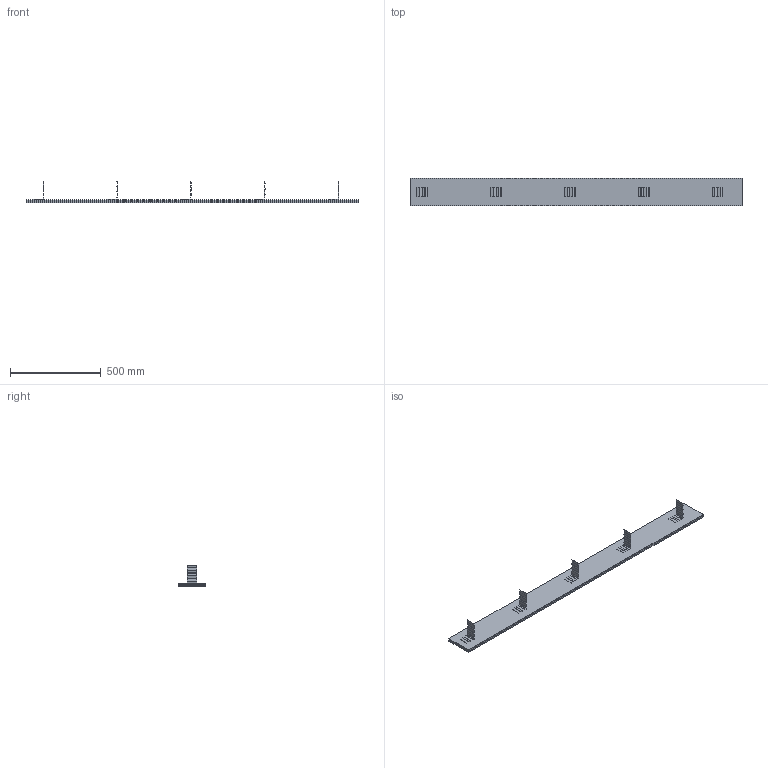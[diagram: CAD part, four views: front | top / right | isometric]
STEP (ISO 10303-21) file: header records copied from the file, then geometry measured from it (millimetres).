
FILE_DESCRIPTION(/* description */ (''),/* implementation_level */ '2;1');
FILE_NAME(/* name */ 'C:\001_Work\Designs\SWW\SWW 6 x 72.stp',/* time_stamp */ '2015-08-12T14:35:47-04:00',/* author */ ('rramoutar'),/* organization */ (''),/* preprocessor_version */ 'ST-DEVELOPER v15.6',/* originating_system */ 'Autodesk Inventor 2015',/* authorisation */ '');
FILE_SCHEMA (('AUTOMOTIVE_DESIGN { 1 0 10303 214 3 1 1 }'));
Length unit declared in the file: inch
Products named in the file (4): SWW 6 x 72 SHEET METAL (A-14177-1); SWW 6 x 72 WAFFLE PAD (A-14177-1); SWW 8 x 72 BRICK TIES (A-14177-1); SWW 6  x 72 WALL ISOLATOR (A-14177-1)
Assembly tree (8 placements, depth 2):
  SWW 6  x 72 WALL ISOLATOR (A-14177-1)
    SWW 6 x 72 SHEET METAL (A-14177-1)
    SWW 6 x 72 WAFFLE PAD (A-14177-1)  x2
    SWW 8 x 72 BRICK TIES (A-14177-1)  x5
Bounding box: 1828.8 x 152.4 x 121.11 mm (x, y, z)
Volume: 4905984.5 mm3; surface area: 1826219.9 mm2
Topology: 8 solids, 8 shells, 448 faces, 896 edges, 464 vertices
Faces by surface type: plane 348, cylinder 100
Entity records: 2555 total; most frequent: DIRECTION 456, CARTESIAN_POINT 410, ORIENTED_EDGE 392, EDGE_CURVE 196, LINE 156, VECTOR 156, AXIS2_PLACEMENT_3D 150, VERTEX_POINT 104
